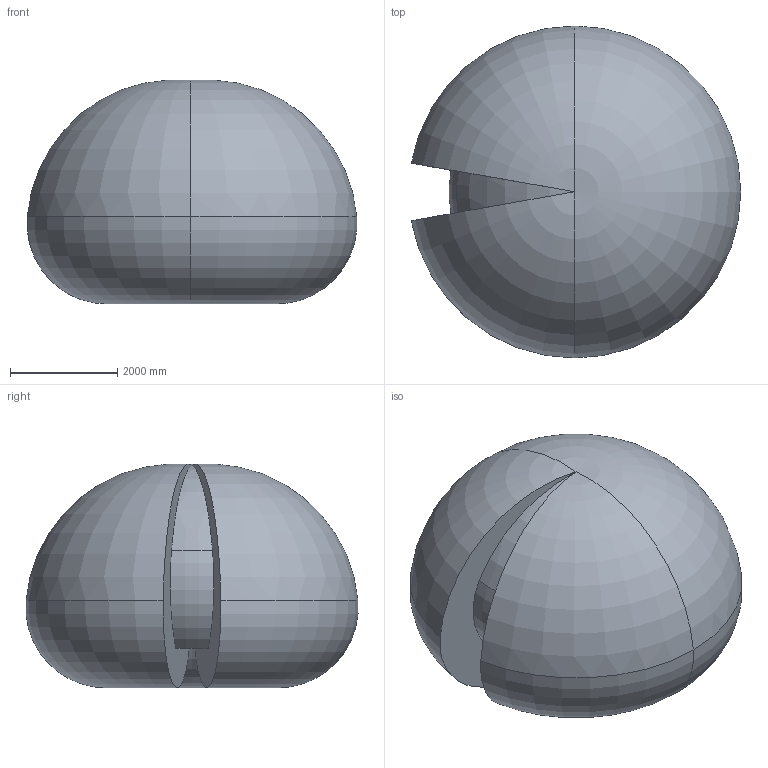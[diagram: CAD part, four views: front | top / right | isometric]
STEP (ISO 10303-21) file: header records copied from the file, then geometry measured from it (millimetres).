
FILE_DESCRIPTION (( 'STEP AP214' ), '1' );
FILE_NAME ('IRB6720-LID_150kg-310_OC_00_Working-space.step', '2026-05-26T07:06:45', ( '' ), ( '' ), 'SwSTEP 2.0', 'SolidWorks 2024', '' );
FILE_SCHEMA (( 'AUTOMOTIVE_DESIGN' ));
Length unit declared in the file: millimetre
Products named in the file (1): IRB6720-LID_150kg-310_OC_00_Working-space
Bounding box: 6143.15 x 6190.17 x 4168.46 mm (x, y, z)
Volume: 83068805573.9 mm3; surface area: 125279669.3 mm2
Topology: 1 solids, 1 shells, 18 faces, 44 edges, 20 vertices
Faces by surface type: torus 16, plane 2
Entity records: 503 total; most frequent: DIRECTION 110, CARTESIAN_POINT 75, ORIENTED_EDGE 72, AXIS2_PLACEMENT_3D 55, CIRCLE 36, EDGE_CURVE 36, VERTEX_POINT 20, FACE_OUTER_BOUND 18
